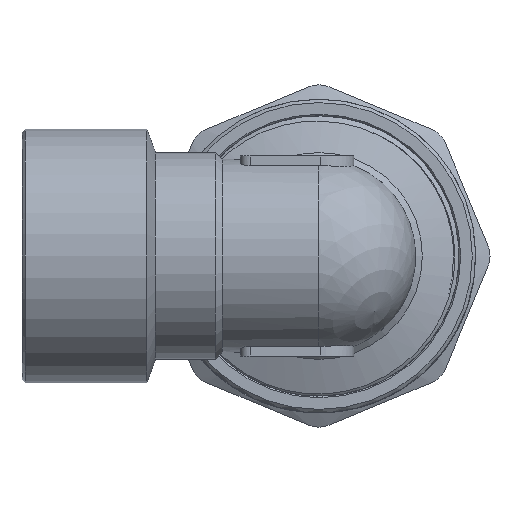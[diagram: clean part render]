
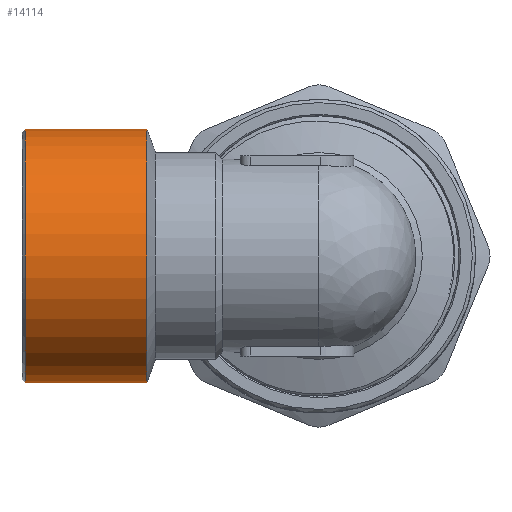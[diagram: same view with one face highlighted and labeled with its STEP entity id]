
A CAD part, left-side view. The second image highlights one B-rep face of the part: STEP entity #14114.
In plain terms, the highlighted cylindrical face has radius 19 mm (diameter 38 mm), a full revolution.
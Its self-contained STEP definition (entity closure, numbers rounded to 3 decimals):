
#763=CIRCLE('',#14948,19.);
#764=CIRCLE('',#14949,19.);
#765=CIRCLE('',#14951,19.);
#766=CIRCLE('',#14952,19.);
#1186=FACE_OUTER_BOUND('',#2045,.T.);
#2045=EDGE_LOOP('',(#10198,#10199,#10200,#10201,#10202,#10203));
#3889=LINE('',#21433,#4896);
#4896=VECTOR('',#16113,19.);
#5926=VERTEX_POINT('',#21423);
#5927=VERTEX_POINT('',#21424);
#5928=VERTEX_POINT('',#21429);
#5929=VERTEX_POINT('',#21430);
#7569=EDGE_CURVE('',#5926,#5927,#763,.T.);
#7570=EDGE_CURVE('',#5927,#5926,#764,.T.);
#7572=EDGE_CURVE('',#5928,#5929,#765,.T.);
#7573=EDGE_CURVE('',#5929,#5928,#766,.T.);
#7574=EDGE_CURVE('',#5929,#5927,#3889,.T.);
#10198=ORIENTED_EDGE('',*,*,#7572,.F.);
#10199=ORIENTED_EDGE('',*,*,#7573,.F.);
#10200=ORIENTED_EDGE('',*,*,#7574,.T.);
#10201=ORIENTED_EDGE('',*,*,#7570,.T.);
#10202=ORIENTED_EDGE('',*,*,#7569,.T.);
#10203=ORIENTED_EDGE('',*,*,#7574,.F.);
#13898=CYLINDRICAL_SURFACE('',#14950,19.);
#14114=ADVANCED_FACE('',(#1186),#13898,.T.);
#14948=AXIS2_PLACEMENT_3D('',#21425,#16102,#16103);
#14949=AXIS2_PLACEMENT_3D('',#21426,#16104,#16105);
#14950=AXIS2_PLACEMENT_3D('',#21428,#16107,#16108);
#14951=AXIS2_PLACEMENT_3D('',#21431,#16109,#16110);
#14952=AXIS2_PLACEMENT_3D('',#21432,#16111,#16112);
#16102=DIRECTION('center_axis',(0.,1.,0.));
#16103=DIRECTION('ref_axis',(1.,0.,0.));
#16104=DIRECTION('center_axis',(0.,1.,0.));
#16105=DIRECTION('ref_axis',(1.,0.,0.));
#16107=DIRECTION('center_axis',(0.,1.,0.));
#16108=DIRECTION('ref_axis',(-1.,0.,0.));
#16109=DIRECTION('center_axis',(0.,1.,0.));
#16110=DIRECTION('ref_axis',(1.,0.,0.));
#16111=DIRECTION('center_axis',(0.,1.,0.));
#16112=DIRECTION('ref_axis',(1.,0.,0.));
#16113=DIRECTION('',(0.,-1.,0.));
#21423=CARTESIAN_POINT('',(-19.,25.772,0.));
#21424=CARTESIAN_POINT('',(19.,25.772,0.));
#21425=CARTESIAN_POINT('Origin',(0.,25.772,
0.));
#21426=CARTESIAN_POINT('Origin',(0.,25.772,
0.));
#21428=CARTESIAN_POINT('Origin',(0.,34.886,
0.));
#21429=CARTESIAN_POINT('',(-19.,44.,0.));
#21430=CARTESIAN_POINT('',(19.,44.,0.));
#21431=CARTESIAN_POINT('Origin',(0.,44.,
0.));
#21432=CARTESIAN_POINT('Origin',(0.,44.,
0.));
#21433=CARTESIAN_POINT('',(19.,34.886,0.));
